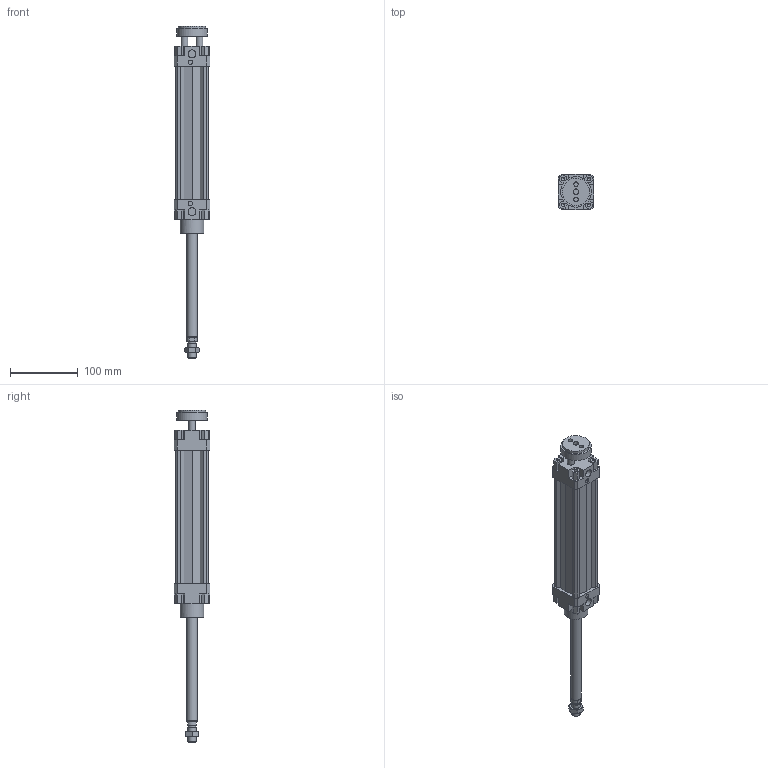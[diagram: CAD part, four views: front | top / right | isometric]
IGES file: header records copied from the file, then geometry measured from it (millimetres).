
Global section: file name: 132#_040_0150_02; native system: Autodesk Inventor 2014; preprocessor: unknown; author: A. Manieri; date: 20161006.154831; units: millimetre
Bounding box: 52 x 52 x 489 mm (x, y, z)
Volume: 437432.2 mm3; surface area: 138018.2 mm2
Topology: 3 solids, 3 shells, 220 faces, 590 edges, 398 vertices
Faces by surface type: bspline 220
